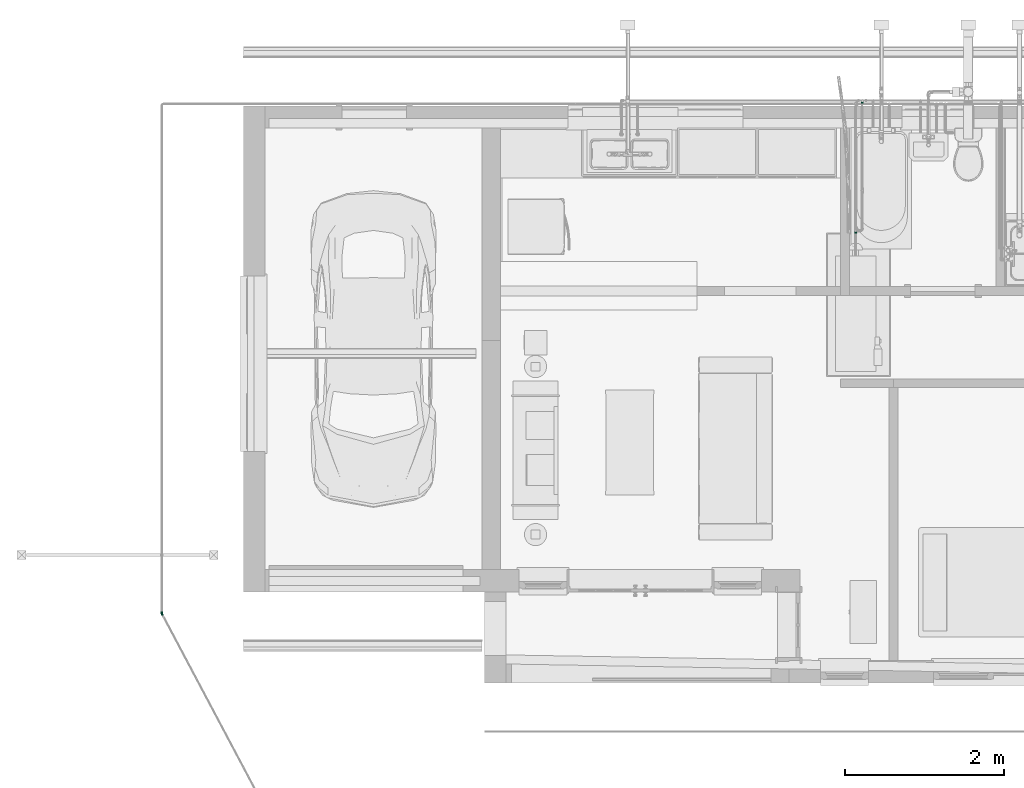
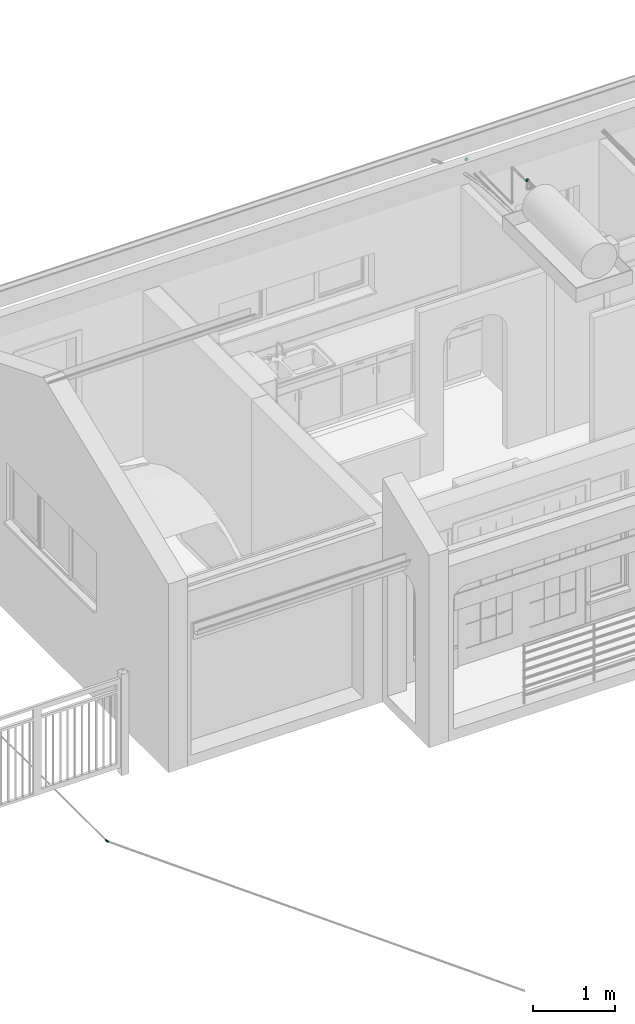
# One storey, part 36 of 41: 3 flow fittings.
"""IFC2X3 building model written with IfcOpenShell, lengths in millimetres."""

from ifc_helpers import new_model, entity, si_unit, converted_unit, derived_unit, direction, frame, origin, place, context, subcontext, project, spatial, faceted_brep, source, transform, mapped, type_object, type_shapes, element, save


model = new_model("IFC2X3")

# Units and contexts
model_context = context("Model", 3, precision=0.01, world=origin(), true_north=direction((6.12303176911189e-17, 1.0)))
body_context = subcontext(model_context, "Body", "Model", "MODEL_VIEW")
ifc_project = project(units=[si_unit("LENGTHUNIT", "METRE", prefix="MILLI"), si_unit("AREAUNIT", "SQUARE_METRE"), si_unit("VOLUMEUNIT", "CUBIC_METRE"), converted_unit("PLANEANGLEUNIT", "DEGREE", entity("IfcRatioMeasure", 0.0174532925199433), si_unit("PLANEANGLEUNIT", "RADIAN"), dimensions=[0, 0, 0, 0, 0, 0, 0]), si_unit("MASSUNIT", "GRAM", prefix="KILO"), derived_unit("MASSDENSITYUNIT", [(si_unit("MASSUNIT", "GRAM", prefix="KILO"), 1), (si_unit("LENGTHUNIT", "METRE"), -3)]), si_unit("TIMEUNIT", "SECOND"), si_unit("FREQUENCYUNIT", "HERTZ"), si_unit("THERMODYNAMICTEMPERATUREUNIT", "DEGREE_CELSIUS"), derived_unit("THERMALTRANSMITTANCEUNIT", [(si_unit("MASSUNIT", "GRAM", prefix="KILO"), 1), (si_unit("THERMODYNAMICTEMPERATUREUNIT", "KELVIN"), -1), (si_unit("TIMEUNIT", "SECOND"), -3)]), derived_unit("VOLUMETRICFLOWRATEUNIT", [(si_unit("LENGTHUNIT", "METRE"), 3), (si_unit("TIMEUNIT", "SECOND"), -1)]), si_unit("ELECTRICCURRENTUNIT", "AMPERE"), si_unit("ELECTRICVOLTAGEUNIT", "VOLT"), si_unit("POWERUNIT", "WATT"), si_unit("FORCEUNIT", "NEWTON", prefix="KILO"), si_unit("ILLUMINANCEUNIT", "LUX"), si_unit("LUMINOUSFLUXUNIT", "LUMEN"), si_unit("LUMINOUSINTENSITYUNIT", "CANDELA"), derived_unit("USERDEFINED", [(si_unit("MASSUNIT", "GRAM", prefix="KILO"), -1), (si_unit("LENGTHUNIT", "METRE"), -2), (si_unit("TIMEUNIT", "SECOND"), 3), (si_unit("LUMINOUSFLUXUNIT", "LUMEN"), 1)]), derived_unit("LINEARVELOCITYUNIT", [(si_unit("LENGTHUNIT", "METRE"), 1), (si_unit("TIMEUNIT", "SECOND"), -1)]), si_unit("PRESSUREUNIT", "PASCAL"), derived_unit("USERDEFINED", [(si_unit("LENGTHUNIT", "METRE"), -2), (si_unit("MASSUNIT", "GRAM", prefix="KILO"), 1), (si_unit("TIMEUNIT", "SECOND"), -2)])], contexts=[model_context])

# Site, building, storey
site_placement = place(None, origin())
site = spatial("IfcSite", under=ifc_project, at=site_placement, Name="Surface", CompositionType="ELEMENT")
building_placement = place(site_placement, origin())
building = spatial("IfcBuilding", under=site, at=building_placement, CompositionType="ELEMENT")
storey_placement = place(building_placement, frame((0.0, 0.0, 300.0)))
storey = spatial("IfcBuildingStorey", under=building, at=storey_placement, Name="F.F.L", CompositionType="ELEMENT", Elevation=300.0)

# Flow fittings
pipe_fitting_type_1 = type_object("IfcPipeFittingType", Name="Standard", PredefinedType="NOTDEFINED")
shared_shape_1 = source(origin(), body_context, "Body", "Brep", [
    faceted_brep([(-27.0001999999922, 3.59598004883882, -13.4203802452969), (-27.0001999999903, -3.59598004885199, -13.420380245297), (-27.0001999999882, -12.0323837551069, -6.94690000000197), (-27.0001999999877, -13.8938000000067, 0.0), (-27.0001999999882, -12.032383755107, 6.94689999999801), (-27.0001999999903, -3.59598004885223, 13.4203802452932), (-27.0001999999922, 3.59598004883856, 13.4203802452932), (-27.0001999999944, 12.0323837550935, 6.94689999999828), (-27.0001999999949, 13.8937999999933, 0.0), (-27.0001999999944, 12.0323837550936, -6.94690000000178), (-7.95019999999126, -13.8938000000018, 0.0), (-7.95019999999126, -12.0323837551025, 6.94689999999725), (-7.95019999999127, -3.59598004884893, 13.4203802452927), (-7.95019999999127, 3.59598004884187, 13.4203802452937), (25.527971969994, 9.50076416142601, 13.4203802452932), (22.1515512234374, 15.8508880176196, 13.4203802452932), (5.33139957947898, 6.90745474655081, 13.4203802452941), (8.70782032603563, 0.557330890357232, 13.4203802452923), (-7.95019999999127, 12.032383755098, 6.94689999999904), (-7.95019999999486, 13.8937999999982, 0.0), (-7.95019999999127, 12.0323837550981, -6.94690000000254), (-7.95019999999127, 3.59598004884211, -13.4203802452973), (-7.95019999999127, -3.59598004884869, -13.4203802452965), (22.1515512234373, 15.8508880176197, -13.4203802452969), (25.527971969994, 9.50076416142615, -13.4203802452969), (8.7078203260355, 0.557330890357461, -13.4203802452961), (5.33139957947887, 6.90745474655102, -13.4203802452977), (-7.95019999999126, -12.0323837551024, -6.94690000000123), (0.212144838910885, -0.85087072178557, 13.7696685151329), (3.1250595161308, -12.5339291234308, 0.0), (0.162194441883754, -9.67472971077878, 9.145800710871), (12.6684719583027, -6.8915714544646, 6.94689999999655), (-3.59736935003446, 14.4282604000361, 0.0), (1.37074794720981, 14.3563570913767, 6.94689999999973), (13.5423539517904, -8.53510444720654, 0.0), (0.496865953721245, 15.9998900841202, 0.0), (0.212144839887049, -0.850870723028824, -13.7696685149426), (12.6684719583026, -6.89157145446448, -6.94690000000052), (4.39880088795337, -8.61842516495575, -9.14580064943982), (1.37074794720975, 14.3563570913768, -6.94690000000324), (18.1908995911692, 23.2997903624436, -6.94690000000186), (17.3170175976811, 24.9433233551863, 0.0), (18.1908995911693, 23.2997903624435, 6.94689999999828), (29.4886236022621, 2.05186181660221, 6.94689999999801), (30.3625055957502, 0.40832882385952, 0.0), (29.4886236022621, 2.05186181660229, -6.9469000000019)], [[[0, 1, 2, 3, 4, 5, 6, 7, 8, 9]], [[3, 10, 11, 4]], [[4, 11, 12, 5]], [[12, 13, 6, 5]], [[14, 15, 16, 17]], [[6, 13, 18, 7]], [[7, 18, 19, 8]], [[8, 19, 20, 9]], [[9, 20, 21, 0]], [[21, 22, 1, 0]], [[23, 24, 25, 26]], [[1, 22, 27, 2]], [[2, 27, 10, 3]], [[12, 28, 13]], [[29, 30, 11]], [[31, 30, 29]], [[12, 11, 30]], [[32, 18, 33]], [[32, 19, 18]], [[18, 13, 28]], [[11, 10, 29]], [[29, 34, 31]], [[17, 28, 30]], [[32, 33, 35]], [[17, 16, 28]], [[28, 16, 33]], [[18, 28, 33]], [[12, 30, 28]], [[31, 17, 30]], [[21, 20, 36]], [[25, 37, 38]], [[39, 36, 20]], [[10, 27, 29]], [[38, 22, 36]], [[38, 27, 22]], [[25, 38, 36]], [[20, 19, 32]], [[32, 35, 39]], [[26, 36, 39]], [[22, 21, 36]], [[26, 25, 36]], [[29, 37, 34]], [[27, 38, 29]], [[38, 37, 29]], [[39, 20, 32]], [[23, 40, 41, 42, 15, 14, 43, 44, 45, 24]], [[34, 44, 43, 31]], [[31, 43, 14, 17]], [[16, 15, 42, 33]], [[33, 42, 41, 35]], [[35, 41, 40, 39]], [[39, 40, 23, 26]], [[25, 24, 45, 37]], [[37, 45, 44, 34]]]),
])
type_shapes(pipe_fitting_type_1, [shared_shape_1])
flow_fitting_1_placement = place(storey_placement, frame((-13111.7418659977, 4450.84008915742, -650.0), z_axis=(0.0, 0.0, 1.0), x_axis=(0.0, -1.0, 0.0)))
element("IfcFlowFitting", 1, at=flow_fitting_1_placement, inside=storey, type_object=pipe_fitting_type_1, Name="M_Elbow - PVC - Sch 40:Standard", ObjectType="Standard", context=body_context, shape_type="MappedRepresentation", body=[
    mapped(shared_shape_1, transform((0.0, 0.0, 0.0), scale=1.0)),
])
pipe_fitting_type_2 = type_object("IfcPipeFittingType", Name="Standard", PredefinedType="NOTDEFINED")
shared_shape_2 = source(origin(), body_context, "Body", "Brep", [
    faceted_brep([(-35.3275671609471, -4.2106493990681, -15.7143574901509), (-35.3275671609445, -14.0891074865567, -8.13435000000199), (-35.327567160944, -16.2687000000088, 0.0), (-35.3275671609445, -14.0891074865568, 8.13434999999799), (-35.3275671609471, -4.21064939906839, 15.7143574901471), (-35.3275671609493, 4.21064939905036, 15.7143574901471), (-35.3275671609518, 14.089107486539, 8.1343499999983), (-35.3275671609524, 16.2686999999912, 0.0), (-35.3275671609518, 14.0891074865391, -8.13435000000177), (-35.3275671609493, 4.21064939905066, -15.7143574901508), (-17.0649671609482, -16.2687000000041, 0.0), (-17.0649671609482, -14.0891074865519, 8.13434999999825), (-17.0649671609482, -4.21064939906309, 15.7143574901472), (-17.0649671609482, 4.21064939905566, 15.714357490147), (4.20543799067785, 35.3281879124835, 15.7143574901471), (-4.21586071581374, 35.3269456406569, 15.7143574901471), (-4.2131666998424, 17.0643458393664, 15.7143574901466), (4.20813200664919, 17.0655881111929, 15.7143574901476), (-17.0649671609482, 14.0891074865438, 8.13434999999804), (-17.0649671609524, 16.2686999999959, 0.0), (-17.0649671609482, 14.089107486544, -8.13435000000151), (-17.0649671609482, 4.21064939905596, -15.7143574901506), (-17.0649671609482, -4.21064939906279, -15.714357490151), (-4.21586071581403, 35.3269456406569, -15.7143574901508), (4.20543799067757, 35.3281879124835, -15.7143574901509), (4.20813200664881, 17.0655881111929, -15.7143574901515), (-4.21316669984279, 17.0643458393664, -15.7143574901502), (-17.0649671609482, -14.0891074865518, -8.13435000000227), (-0.79064432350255, 0.790525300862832, 15.1411212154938), (-5.95499238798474, -10.4175738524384, 10.3176096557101), (-3.61135973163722, -8.50037405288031, 0.0), (10.3997538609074, 5.85245575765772, 10.2889358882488), (14.0865899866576, 17.0670453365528, 8.13434999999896), (11.8022942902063, 0.399713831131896, 0.0), (-16.5036597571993, 16.5012253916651, 0.0), (-14.0916246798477, 17.0628886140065, 8.13434999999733), (-9.78226050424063, 9.78081737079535, 14.7959509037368), (16.2661824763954, 17.0673668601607, 0.0), (-16.2712171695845, 17.0625670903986, 0.0), (14.0865899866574, 17.0670453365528, -8.13435000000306), (10.3997533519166, 5.8524558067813, -10.2889364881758), (-0.790643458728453, 0.790525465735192, -15.1411210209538), (-14.0916246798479, 17.0628886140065, -8.1343500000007), (-9.78226021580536, 9.78081710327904, -14.7959510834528), (-5.95499220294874, -10.4175738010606, -10.317609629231), (-14.0943186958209, 35.325488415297, -8.13435000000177), (-16.273911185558, 35.3251668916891, 0.0), (-14.0943186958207, 35.325488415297, 8.1343499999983), (14.0838959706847, 35.3296451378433, 8.13434999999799), (16.2634884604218, 35.3299666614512, 0.0), (14.0838959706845, 35.3296451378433, -8.13435000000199)], [[[0, 1, 2, 3, 4, 5, 6, 7, 8, 9]], [[2, 10, 11, 3]], [[3, 11, 12, 4]], [[12, 13, 5, 4]], [[14, 15, 16, 17]], [[5, 13, 18, 6]], [[6, 18, 19, 7]], [[7, 19, 20, 8]], [[8, 20, 21, 9]], [[21, 22, 0, 9]], [[23, 24, 25, 26]], [[0, 22, 27, 1]], [[1, 27, 10, 2]], [[12, 28, 13]], [[29, 11, 30]], [[28, 12, 29]], [[29, 31, 28]], [[32, 31, 33]], [[34, 18, 35]], [[18, 36, 35]], [[34, 19, 18]], [[18, 13, 36]], [[11, 10, 30]], [[29, 33, 31]], [[33, 37, 32]], [[17, 28, 31]], [[32, 17, 31]], [[28, 36, 13]], [[34, 35, 38]], [[29, 12, 11]], [[35, 36, 16]], [[28, 16, 36]], [[33, 29, 30]], [[16, 28, 17]], [[20, 19, 34]], [[39, 40, 25]], [[41, 25, 40]], [[20, 42, 43]], [[44, 30, 27]], [[41, 21, 43]], [[41, 43, 26]], [[22, 41, 44]], [[27, 30, 10]], [[20, 34, 42]], [[42, 26, 43]], [[20, 43, 21]], [[44, 27, 22]], [[25, 41, 26]], [[40, 39, 33]], [[22, 21, 41]], [[39, 37, 33]], [[44, 40, 33]], [[44, 33, 30]], [[44, 41, 40]], [[42, 34, 38]], [[23, 45, 46, 47, 15, 14, 48, 49, 50, 24]], [[37, 49, 48, 32]], [[32, 48, 14, 17]], [[16, 15, 47, 35]], [[35, 47, 46, 38]], [[38, 46, 45, 42]], [[42, 45, 23, 26]], [[25, 24, 50, 39]], [[39, 50, 49, 37]]]),
])
type_shapes(pipe_fitting_type_2, [shared_shape_2])
flow_fitting_2_placement = place(storey_placement, frame((-4396.87517007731, 9258.84008589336, 3283.64425463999), z_axis=(-1.0, 0.0, 0.0), x_axis=(0.0, 0.999999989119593, 0.000147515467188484)))
element("IfcFlowFitting", 2, at=flow_fitting_2_placement, inside=storey, type_object=pipe_fitting_type_2, Name="M_Elbow - PVC - Sch 40:Standard", ObjectType="Standard", context=body_context, shape_type="MappedRepresentation", body=[
    mapped(shared_shape_2, transform((0.0, 0.0, 0.0), scale=1.0)),
])
pipe_fitting_type_3 = type_object("IfcPipeFittingType", Name="Standard", PredefinedType="NOTDEFINED")
shared_shape_3 = source(origin(), body_context, "Body", "Brep", [
    faceted_brep([(-35.3248128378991, -4.2106493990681, -15.7143574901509), (-35.3248128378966, -14.0891074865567, -8.13435000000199), (-35.324812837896, -16.2687000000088, 0.0), (-35.3248128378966, -14.0891074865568, 8.13434999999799), (-35.3248128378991, -4.21064939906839, 15.7143574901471), (-35.3248128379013, 4.21064939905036, 15.7143574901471), (-35.3248128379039, 14.089107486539, 8.1343499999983), (-35.3248128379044, 16.2686999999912, 0.0), (-35.3248128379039, 14.0891074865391, -8.13435000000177), (-35.3248128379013, 4.21064939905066, -15.7143574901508), (-17.0622128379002, -16.2687000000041, 0.0), (-17.0622128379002, -14.0891074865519, 8.13434999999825), (-17.0622128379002, -4.21064939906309, 15.7143574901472), (-17.0622128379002, 4.21064939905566, 15.714357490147), (4.21114040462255, 35.3247543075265, 15.7143574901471), (-4.21015839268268, 35.3248713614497, 15.7143574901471), (-4.21041223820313, 17.0622713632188, 15.7143574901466), (4.2108865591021, 17.0621543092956, 15.7143574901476), (-17.0622128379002, 14.0891074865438, 8.13434999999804), (-17.0622128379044, 16.2686999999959, 0.0), (-17.0622128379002, 14.089107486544, -8.13435000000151), (-17.0622128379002, 4.21064939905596, -15.7143574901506), (-17.0622128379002, -4.21064939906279, -15.714357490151), (-4.21015839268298, 35.3248713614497, -15.7143574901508), (4.21114040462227, 35.3247543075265, -15.7143574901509), (4.21088655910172, 17.0621543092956, -15.7143574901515), (-4.21041223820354, 17.0622713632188, -15.7143574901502), (-17.0622128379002, -14.0891074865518, -8.13435000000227), (-0.790027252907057, 0.790035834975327, 15.1415791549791), (-5.95202002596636, -10.4173725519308, 10.3177375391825), (-3.60805873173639, -8.50102362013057, 0.0), (10.4005283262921, 5.84800825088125, 10.2891220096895), (14.0893446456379, 17.0620170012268, 8.13434999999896), (11.803255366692, 0.396607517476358, 0.0), (-16.5009507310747, 16.5011800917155, 0.0), (-14.0888703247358, 17.0624086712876, 8.13434999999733), (-9.78057915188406, 9.78071489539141, 14.7956371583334), (16.2689371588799, 17.0619867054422, 0.0), (-16.2684628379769, 17.0624389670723, 0.0), (14.0893446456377, 17.0620170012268, -8.13435000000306), (10.400527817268, 5.84800830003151, -10.2891226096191), (-0.790026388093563, 0.790035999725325, -15.1415789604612), (-14.088870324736, 17.0624086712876, -8.1343500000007), (-9.78057886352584, 9.78071462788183, -14.7956373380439), (-5.95201984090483, -10.4173725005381, -10.3177375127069), (-14.0886164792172, 35.3250086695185, -8.13435000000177), (-16.2682089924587, 35.3250389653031, 0.0), (-14.088616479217, 35.3250086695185, 8.1343499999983), (14.0895984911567, 35.3246169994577, 8.13434999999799), (16.2691910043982, 35.324586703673, 0.0), (14.0895984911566, 35.3246169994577, -8.13435000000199)], [[[0, 1, 2, 3, 4, 5, 6, 7, 8, 9]], [[2, 10, 11, 3]], [[3, 11, 12, 4]], [[12, 13, 5, 4]], [[14, 15, 16, 17]], [[5, 13, 18, 6]], [[6, 18, 19, 7]], [[7, 19, 20, 8]], [[8, 20, 21, 9]], [[21, 22, 0, 9]], [[23, 24, 25, 26]], [[0, 22, 27, 1]], [[1, 27, 10, 2]], [[12, 28, 13]], [[29, 11, 30]], [[28, 12, 29]], [[29, 31, 28]], [[32, 31, 33]], [[34, 18, 35]], [[18, 36, 35]], [[34, 19, 18]], [[18, 13, 36]], [[11, 10, 30]], [[29, 33, 31]], [[33, 37, 32]], [[17, 28, 31]], [[32, 17, 31]], [[28, 36, 13]], [[34, 35, 38]], [[29, 12, 11]], [[35, 36, 16]], [[28, 16, 36]], [[33, 29, 30]], [[16, 28, 17]], [[20, 19, 34]], [[39, 40, 25]], [[41, 25, 40]], [[20, 42, 43]], [[44, 30, 27]], [[41, 21, 43]], [[41, 43, 26]], [[22, 41, 44]], [[27, 30, 10]], [[20, 34, 42]], [[42, 26, 43]], [[20, 43, 21]], [[44, 27, 22]], [[25, 41, 26]], [[40, 39, 33]], [[22, 21, 41]], [[39, 37, 33]], [[44, 40, 33]], [[44, 33, 30]], [[44, 41, 40]], [[42, 34, 38]], [[23, 45, 46, 47, 15, 14, 48, 49, 50, 24]], [[37, 49, 48, 32]], [[32, 48, 14, 17]], [[16, 15, 47, 35]], [[35, 47, 46, 38]], [[38, 46, 45, 42]], [[42, 45, 23, 26]], [[25, 24, 50, 39]], [[39, 50, 49, 37]]]),
])
type_shapes(pipe_fitting_type_3, [shared_shape_3])
flow_fitting_3_placement = place(storey_placement, frame((-4315.02514920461, 10892.2366130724, 2580.0), z_axis=(0.999999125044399, -0.00132284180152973, -6.59893398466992e-08), x_axis=(4.76021116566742e-08, -1.38998252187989e-05, 1.0)))
element("IfcFlowFitting", 3, at=flow_fitting_3_placement, inside=storey, type_object=pipe_fitting_type_3, Name="M_Elbow - PVC - Sch 40:Standard", ObjectType="Standard", context=body_context, shape_type="MappedRepresentation", body=[
    mapped(shared_shape_3, transform((0.0, 0.0, 0.0), scale=1.0)),
])

save(model, "model.ifc")
